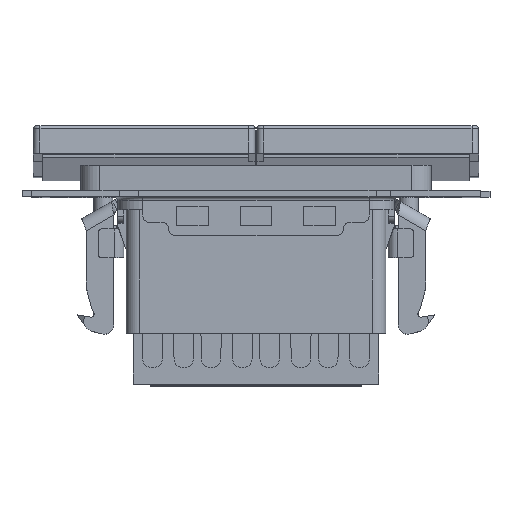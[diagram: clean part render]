
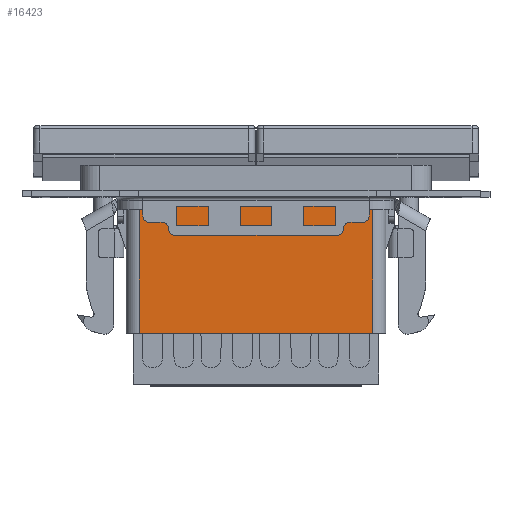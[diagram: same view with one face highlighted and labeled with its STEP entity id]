
A CAD part, top view. The second image highlights one B-rep face of the part: STEP entity #16423.
In plain terms, the highlighted planar face has unit normal (0, 0, 1).
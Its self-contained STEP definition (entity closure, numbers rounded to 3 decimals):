
#61 = AXIS2_PLACEMENT_3D ( 'NONE', #34217, #10091, #52126 ) ;
#804 = VERTEX_POINT ( 'NONE', #71375 ) ;
#2078 = CARTESIAN_POINT ( 'NONE',  ( 26.7, 47.701, 64.248 ) ) ;
#3508 = ORIENTED_EDGE ( 'NONE', *, *, #69303, .T. ) ;
#5917 = LINE ( 'NONE', #34369, #68862 ) ;
#9740 = VERTEX_POINT ( 'NONE', #50523 ) ;
#10091 = DIRECTION ( 'NONE',  ( 0., 0., -1. ) ) ;
#10242 = DIRECTION ( 'NONE',  ( 0., 1., 0. ) ) ;
#10624 = EDGE_CURVE ( 'NONE', #55855, #60486, #36138, .T. ) ;
#10999 = ORIENTED_EDGE ( 'NONE', *, *, #10624, .T. ) ;
#16423 = ADVANCED_FACE ( 'NONE', ( #28369 ), #57174, .F. ) ;
#18759 = DIRECTION ( 'NONE',  ( 1., 0., 0. ) ) ;
#19349 = VECTOR ( 'NONE', #55418, 1000. ) ;
#24990 = CARTESIAN_POINT ( 'NONE',  ( 62.1, 47.901, 64.248 ) ) ;
#28369 = FACE_OUTER_BOUND ( 'NONE', #43339, .T. ) ;
#29697 = VECTOR ( 'NONE', #40463, 1000. ) ;
#34217 = CARTESIAN_POINT ( 'NONE',  ( 63.898, 47.701, 64.248 ) ) ;
#34369 = CARTESIAN_POINT ( 'NONE',  ( 63.3, 47.701, 64.248 ) ) ;
#35851 = CARTESIAN_POINT ( 'NONE',  ( 63.3, 25.501, 64.248 ) ) ;
#36138 = LINE ( 'NONE', #59871, #29697 ) ;
#40463 = DIRECTION ( 'NONE',  ( 1., 0., 0. ) ) ;
#43339 = EDGE_LOOP ( 'NONE', ( #73992, #71048, #10999, #3508 ) ) ;
#44080 = VECTOR ( 'NONE', #18759, 1000. ) ;
#44839 = CARTESIAN_POINT ( 'NONE',  ( 26.7, 25.501, 64.248 ) ) ;
#50523 = CARTESIAN_POINT ( 'NONE',  ( 26.7, 47.901, 64.248 ) ) ;
#52126 = DIRECTION ( 'NONE',  ( -1., 0., 0. ) ) ;
#55418 = DIRECTION ( 'NONE',  ( 0., -1., 0. ) ) ;
#55855 = VERTEX_POINT ( 'NONE', #44839 ) ;
#57174 = PLANE ( 'NONE',  #61 ) ;
#59704 = LINE ( 'NONE', #2078, #19349 ) ;
#59871 = CARTESIAN_POINT ( 'NONE',  ( 63.898, 25.501, 64.248 ) ) ;
#60486 = VERTEX_POINT ( 'NONE', #35851 ) ;
#68862 = VECTOR ( 'NONE', #10242, 1000. ) ;
#69303 = EDGE_CURVE ( 'NONE', #60486, #804, #5917, .T. ) ;
#70479 = EDGE_CURVE ( 'NONE', #9740, #804, #73243, .T. ) ;
#71048 = ORIENTED_EDGE ( 'NONE', *, *, #71717, .T. ) ;
#71375 = CARTESIAN_POINT ( 'NONE',  ( 63.3, 47.901, 64.248 ) ) ;
#71717 = EDGE_CURVE ( 'NONE', #9740, #55855, #59704, .T. ) ;
#73243 = LINE ( 'NONE', #24990, #44080 ) ;
#73992 = ORIENTED_EDGE ( 'NONE', *, *, #70479, .F. ) ;
